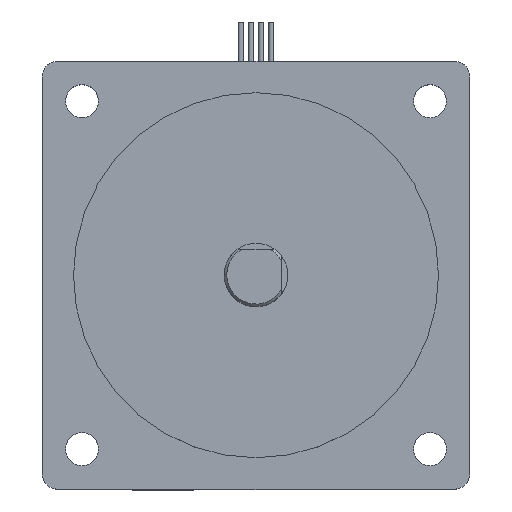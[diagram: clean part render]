
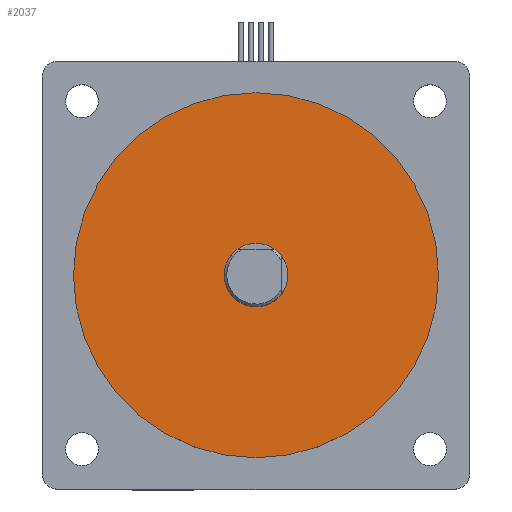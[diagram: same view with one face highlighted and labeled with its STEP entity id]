
A CAD part, top view. The second image highlights one B-rep face of the part: STEP entity #2037.
In plain terms, the highlighted planar face has unit normal (0, 0, 1).
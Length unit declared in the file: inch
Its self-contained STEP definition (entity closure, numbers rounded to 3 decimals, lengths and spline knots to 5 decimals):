
#267=CARTESIAN_POINT('',(-1.4375,0.,3.85));
#268=VERTEX_POINT('',#267);
#284=CARTESIAN_POINT('',(1.4375,0.,3.85));
#285=VERTEX_POINT('',#284);
#292=CARTESIAN_POINT('',(0.0,0.0,3.85));
#293=DIRECTION('',(0.0,0.0,-1.0));
#294=DIRECTION('',(-1.0,0.0,0.0));
#295=AXIS2_PLACEMENT_3D('',#292,#293,#294);
#296=CIRCLE('',#295,1.4375);
#297=EDGE_CURVE('',#285,#268,#296,.T.);
#307=CARTESIAN_POINT('',(-0.25,0.,3.85));
#308=VERTEX_POINT('',#307);
#317=CARTESIAN_POINT('',(0.25,0.,3.85));
#318=VERTEX_POINT('',#317);
#319=CARTESIAN_POINT('',(0.0,0.0,3.85));
#320=DIRECTION('',(0.0,0.0,1.0));
#321=DIRECTION('',(-1.0,0.0,0.0));
#322=AXIS2_PLACEMENT_3D('',#319,#320,#321);
#323=CIRCLE('',#322,0.25);
#324=EDGE_CURVE('',#308,#318,#323,.T.);
#929=CARTESIAN_POINT('',(0.0,0.0,3.85));
#930=DIRECTION('',(0.0,0.0,1.0));
#931=DIRECTION('',(-1.0,0.0,0.0));
#932=AXIS2_PLACEMENT_3D('',#929,#930,#931);
#933=CIRCLE('',#932,0.25);
#934=EDGE_CURVE('',#318,#308,#933,.T.);
#2018=CARTESIAN_POINT('',(0.0,0.0,3.85));
#2019=DIRECTION('',(0.0,0.0,-1.0));
#2020=DIRECTION('',(-1.0,0.0,0.0));
#2021=AXIS2_PLACEMENT_3D('',#2018,#2019,#2020);
#2022=PLANE('',#2021);
#2023=ORIENTED_EDGE('',*,*,#297,.F.);
#2024=CARTESIAN_POINT('',(0.0,0.0,3.85));
#2025=DIRECTION('',(0.0,0.0,-1.0));
#2026=DIRECTION('',(-1.0,0.0,0.0));
#2027=AXIS2_PLACEMENT_3D('',#2024,#2025,#2026);
#2028=CIRCLE('',#2027,1.4375);
#2029=EDGE_CURVE('',#268,#285,#2028,.T.);
#2030=ORIENTED_EDGE('',*,*,#2029,.F.);
#2031=EDGE_LOOP('',(#2023,#2030));
#2032=FACE_OUTER_BOUND('',#2031,.T.);
#2033=ORIENTED_EDGE('',*,*,#934,.F.);
#2034=ORIENTED_EDGE('',*,*,#324,.F.);
#2035=EDGE_LOOP('',(#2033,#2034));
#2036=FACE_BOUND('',#2035,.T.);
#2037=ADVANCED_FACE('',(#2032,#2036),#2022,.F.);
